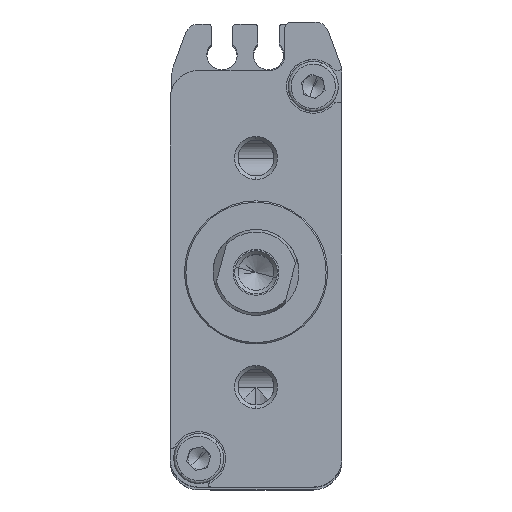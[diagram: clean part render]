
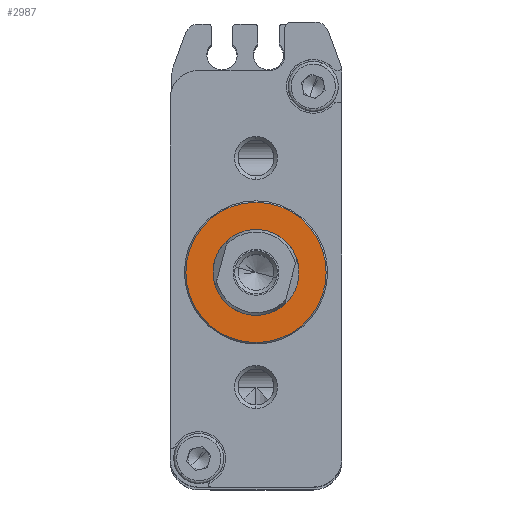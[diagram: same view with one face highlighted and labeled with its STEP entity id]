
A CAD part, top view. The second image highlights one B-rep face of the part: STEP entity #2987.
In plain terms, the highlighted planar face has unit normal (0, 0, 1).
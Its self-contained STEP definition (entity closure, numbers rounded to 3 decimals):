
#772 = DIRECTION ( 'NONE',  ( 0., 0., 1. ) ) ;
#1266 = AXIS2_PLACEMENT_3D ( 'NONE', #13521, #772, #22183 ) ;
#2177 = VERTEX_POINT ( 'NONE', #16511 ) ;
#2701 = CIRCLE ( 'NONE', #5747, 9.8 ) ;
#2737 = DIRECTION ( 'NONE',  ( 0., 0., -1. ) ) ;
#2987 = ADVANCED_FACE ( 'NONE', ( #9475, #16509 ), #25572, .T. ) ;
#3473 = DIRECTION ( 'NONE',  ( 0., 0., 1. ) ) ;
#4206 = CARTESIAN_POINT ( 'NONE',  ( 0., 6., 2. ) ) ;
#4794 = DIRECTION ( 'NONE',  ( 0., -1., 0. ) ) ;
#5583 = DIRECTION ( 'NONE',  ( 0., 1., 0. ) ) ;
#5747 = AXIS2_PLACEMENT_3D ( 'NONE', #18497, #13869, #16335 ) ;
#7158 = VERTEX_POINT ( 'NONE', #18116 ) ;
#9475 = FACE_BOUND ( 'NONE', #15357, .T. ) ;
#10640 = CARTESIAN_POINT ( 'NONE',  ( 0., 0., 2. ) ) ;
#11953 = AXIS2_PLACEMENT_3D ( 'NONE', #24310, #2737, #4794 ) ;
#12255 = VERTEX_POINT ( 'NONE', #4206 ) ;
#12310 = EDGE_LOOP ( 'NONE', ( #15130, #24569 ) ) ;
#12572 = DIRECTION ( 'NONE',  ( 0., 0., 1. ) ) ;
#13521 = CARTESIAN_POINT ( 'NONE',  ( 0., 0., 2. ) ) ;
#13869 = DIRECTION ( 'NONE',  ( 0., 0., -1. ) ) ;
#14349 = CIRCLE ( 'NONE', #11953, 9.8 ) ;
#15130 = ORIENTED_EDGE ( 'NONE', *, *, #16914, .F. ) ;
#15357 = EDGE_LOOP ( 'NONE', ( #17000, #25167 ) ) ;
#15486 = EDGE_CURVE ( 'NONE', #23846, #12255, #21167, .T. ) ;
#16223 = CARTESIAN_POINT ( 'NONE',  ( 0., 0., 2. ) ) ;
#16335 = DIRECTION ( 'NONE',  ( 0., -1., 0. ) ) ;
#16509 = FACE_OUTER_BOUND ( 'NONE', #12310, .T. ) ;
#16511 = CARTESIAN_POINT ( 'NONE',  ( 0., -9.8, 2. ) ) ;
#16914 = EDGE_CURVE ( 'NONE', #2177, #7158, #14349, .T. ) ;
#17000 = ORIENTED_EDGE ( 'NONE', *, *, #22676, .F. ) ;
#18116 = CARTESIAN_POINT ( 'NONE',  ( 0., 9.8, 2. ) ) ;
#18497 = CARTESIAN_POINT ( 'NONE',  ( 0., 0., 2. ) ) ;
#20171 = CIRCLE ( 'NONE', #24664, 6. ) ;
#21167 = CIRCLE ( 'NONE', #1266, 6. ) ;
#22183 = DIRECTION ( 'NONE',  ( 0., 1., 0. ) ) ;
#22676 = EDGE_CURVE ( 'NONE', #12255, #23846, #20171, .T. ) ;
#22874 = AXIS2_PLACEMENT_3D ( 'NONE', #10640, #12572, #23384 ) ;
#23384 = DIRECTION ( 'NONE',  ( 0., 1., 0. ) ) ;
#23846 = VERTEX_POINT ( 'NONE', #25250 ) ;
#24310 = CARTESIAN_POINT ( 'NONE',  ( 0., 0., 2. ) ) ;
#24569 = ORIENTED_EDGE ( 'NONE', *, *, #25928, .F. ) ;
#24664 = AXIS2_PLACEMENT_3D ( 'NONE', #16223, #3473, #5583 ) ;
#25167 = ORIENTED_EDGE ( 'NONE', *, *, #15486, .F. ) ;
#25250 = CARTESIAN_POINT ( 'NONE',  ( 0., -6., 2. ) ) ;
#25572 = PLANE ( 'NONE',  #22874 ) ;
#25928 = EDGE_CURVE ( 'NONE', #7158, #2177, #2701, .T. ) ;
